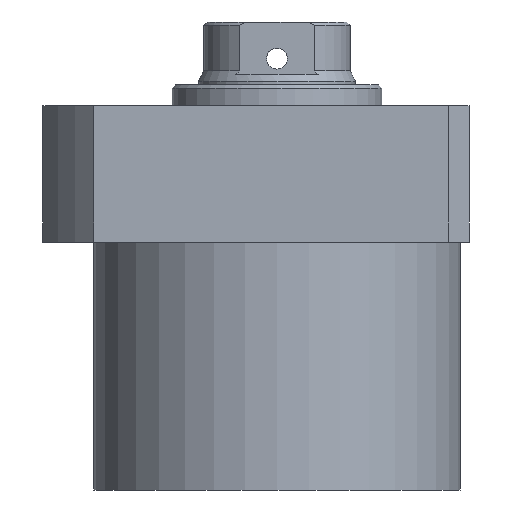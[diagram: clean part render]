
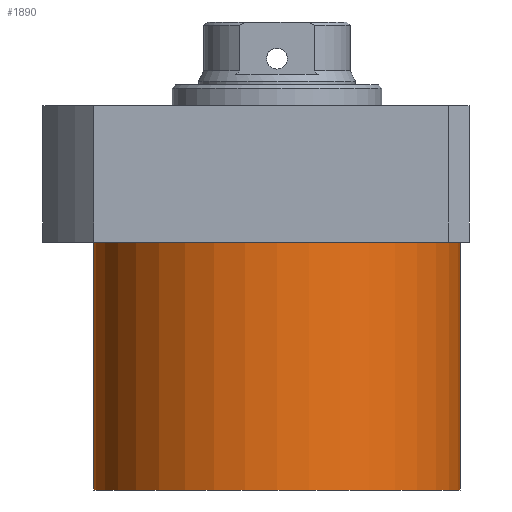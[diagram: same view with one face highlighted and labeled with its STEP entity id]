
A CAD part, front view. The second image highlights one B-rep face of the part: STEP entity #1890.
In plain terms, the highlighted cylindrical face has radius 52.5 mm (diameter 105 mm), a partial arc.
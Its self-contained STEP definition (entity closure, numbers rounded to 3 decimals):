
#63 = ORIENTED_EDGE ( 'NONE', *, *, #2150, .F. ) ;
#180 = CARTESIAN_POINT ( 'NONE',  ( -52.5, 0., -90.5 ) ) ;
#188 = ORIENTED_EDGE ( 'NONE', *, *, #1372, .T. ) ;
#240 = CIRCLE ( 'NONE', #1186, 52.5 ) ;
#245 = VECTOR ( 'NONE', #1999, 1000. ) ;
#338 = DIRECTION ( 'NONE',  ( 0., 0., 1. ) ) ;
#356 = DIRECTION ( 'NONE',  ( -1., 0., 0. ) ) ;
#359 = CARTESIAN_POINT ( 'NONE',  ( 0., 0., -90.5 ) ) ;
#512 = VECTOR ( 'NONE', #673, 1000. ) ;
#673 = DIRECTION ( 'NONE',  ( 0., 0., 1. ) ) ;
#688 = EDGE_CURVE ( 'NONE', #1924, #1303, #760, .T. ) ;
#760 = CIRCLE ( 'NONE', #786, 52.5 ) ;
#786 = AXIS2_PLACEMENT_3D ( 'NONE', #1403, #1571, #1074 ) ;
#909 = EDGE_LOOP ( 'NONE', ( #2151, #63, #188, #1163 ) ) ;
#940 = CARTESIAN_POINT ( 'NONE',  ( 0., 0., -90.5 ) ) ;
#1003 = DIRECTION ( 'NONE',  ( 1., 0., 0. ) ) ;
#1074 = DIRECTION ( 'NONE',  ( 1., 0., 0. ) ) ;
#1115 = LINE ( 'NONE', #1358, #512 ) ;
#1153 = CYLINDRICAL_SURFACE ( 'NONE', #1263, 52.5 ) ;
#1163 = ORIENTED_EDGE ( 'NONE', *, *, #688, .T. ) ;
#1186 = AXIS2_PLACEMENT_3D ( 'NONE', #940, #1526, #356 ) ;
#1263 = AXIS2_PLACEMENT_3D ( 'NONE', #359, #338, #1003 ) ;
#1303 = VERTEX_POINT ( 'NONE', #1817 ) ;
#1316 = CARTESIAN_POINT ( 'NONE',  ( 52.5, 0., -90.5 ) ) ;
#1358 = CARTESIAN_POINT ( 'NONE',  ( 52.5, 0., -90.5 ) ) ;
#1372 = EDGE_CURVE ( 'NONE', #1828, #1924, #1115, .T. ) ;
#1389 = EDGE_CURVE ( 'NONE', #2090, #1303, #1866, .T. ) ;
#1403 = CARTESIAN_POINT ( 'NONE',  ( 0., 0., -19.5 ) ) ;
#1427 = CARTESIAN_POINT ( 'NONE',  ( -52.5, 0., -90.5 ) ) ;
#1526 = DIRECTION ( 'NONE',  ( 0., 0., -1. ) ) ;
#1571 = DIRECTION ( 'NONE',  ( 0., 0., -1. ) ) ;
#1817 = CARTESIAN_POINT ( 'NONE',  ( -52.5, 0., -19.5 ) ) ;
#1828 = VERTEX_POINT ( 'NONE', #1316 ) ;
#1836 = CARTESIAN_POINT ( 'NONE',  ( 52.5, 0., -19.5 ) ) ;
#1866 = LINE ( 'NONE', #180, #245 ) ;
#1890 = ADVANCED_FACE ( 'NONE', ( #2133 ), #1153, .T. ) ;
#1924 = VERTEX_POINT ( 'NONE', #1836 ) ;
#1999 = DIRECTION ( 'NONE',  ( 0., 0., 1. ) ) ;
#2090 = VERTEX_POINT ( 'NONE', #1427 ) ;
#2133 = FACE_OUTER_BOUND ( 'NONE', #909, .T. ) ;
#2150 = EDGE_CURVE ( 'NONE', #1828, #2090, #240, .T. ) ;
#2151 = ORIENTED_EDGE ( 'NONE', *, *, #1389, .F. ) ;
